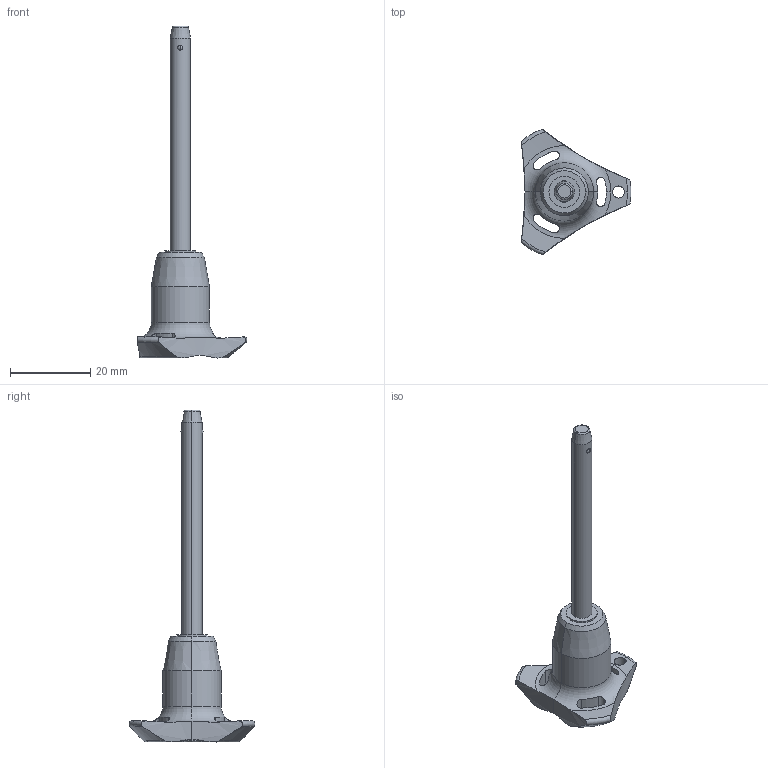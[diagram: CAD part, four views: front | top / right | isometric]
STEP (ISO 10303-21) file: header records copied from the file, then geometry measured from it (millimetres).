
FILE_DESCRIPTION (( 'STEP AP203' ), '1' );
FILE_NAME ('QR1714.M05-050-S.step', '2025-11-12T09:56:00', ( '' ), ( '' ), 'SwSTEP 2.0', 'SolidWorks 2019', '' );
FILE_SCHEMA (( 'CONFIG_CONTROL_DESIGN' ));
Length unit declared in the file: millimetre
Products named in the file (1): QR1714.M05-050-S
Bounding box: 27.4 x 31.31 x 82.7 mm (x, y, z)
Volume: 5849.8 mm3; surface area: 3293.7 mm2
Topology: 1 solids, 1 shells, 66 faces, 181 edges, 115 vertices
Faces by surface type: cylinder 30, cone 14, torus 12, sphere 6, plane 4
Entity records: 2693 total; most frequent: CARTESIAN_POINT 981, ORIENTED_EDGE 362, DIRECTION 332, EDGE_CURVE 181, AXIS2_PLACEMENT_3D 148, VERTEX_POINT 115, CIRCLE 81, EDGE_LOOP 72
